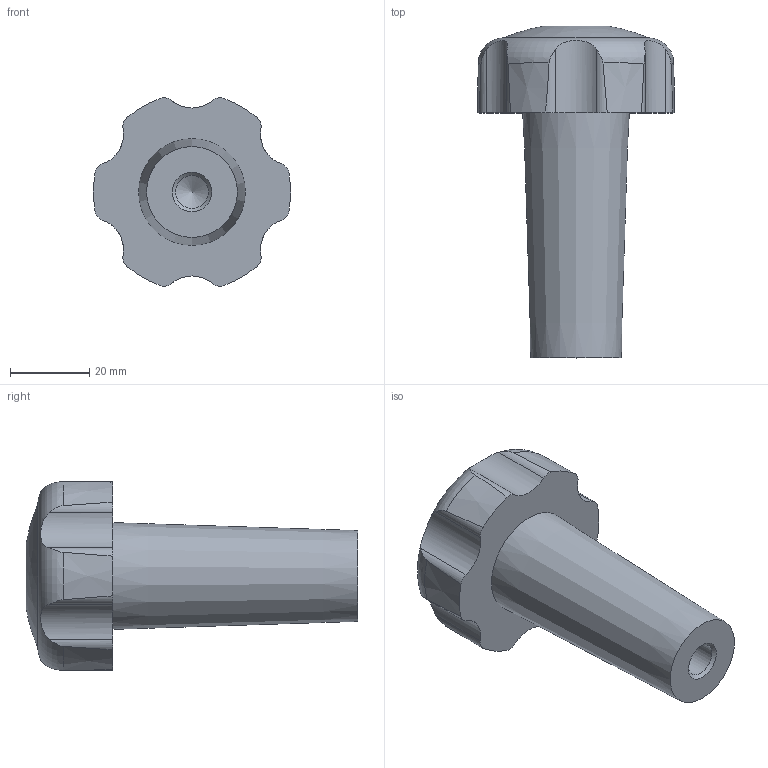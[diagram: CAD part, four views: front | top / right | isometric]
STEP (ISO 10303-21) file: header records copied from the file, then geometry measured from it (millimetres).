
FILE_DESCRIPTION( ( 'STEP AP203' ), '1' );
FILE_NAME( 'C:/Temp/Ganter_Step_05_03_2020/data/2_2/gn_5332/gn_5332_mb/Star knob GN 5332-50-M10.stp', '2020-03-05T12:04:59', ( 'License CC BY-ND 4.0' ), ( 'CADENAS' ), ' ', 'PARTsolutions', ' ' );
FILE_SCHEMA( ( 'CONFIG_CONTROL_DESIGN' ) );
Length unit declared in the file: millimetre
Products named in the file (1): _Star knob GN 5332-50-M10
Bounding box: 49.89 x 84 x 47.66 mm (x, y, z)
Volume: 63811.7 mm3; surface area: 11509.7 mm2
Topology: 1 solids, 1 shells, 34 faces, 88 edges, 58 vertices
Faces by surface type: cylinder 19, cone 9, plane 4, bspline 1, torus 1
Full cylindrical faces by diameter (mm): 8.376 x1
Entity records: 1523 total; most frequent: CARTESIAN_POINT 705, ORIENTED_EDGE 160, DIRECTION 156, EDGE_CURVE 80, AXIS2_PLACEMENT_3D 72, VERTEX_POINT 57, EDGE_LOOP 42, CIRCLE 38
